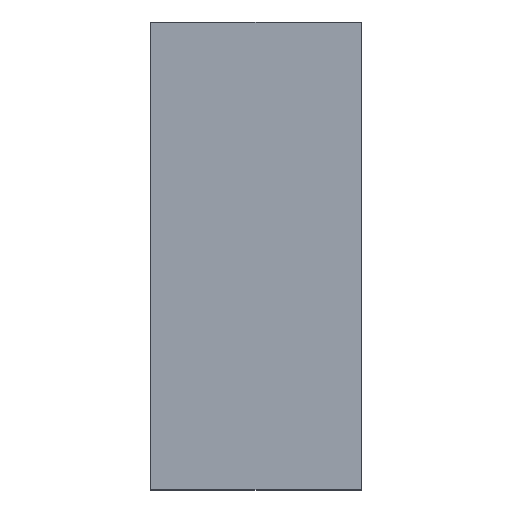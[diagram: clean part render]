
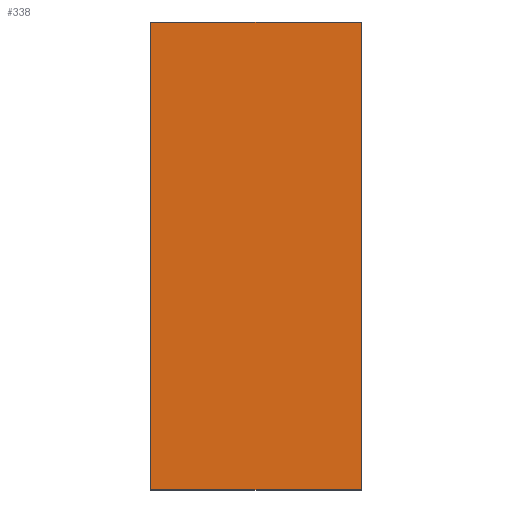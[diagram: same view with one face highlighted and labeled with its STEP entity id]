
A CAD part, top view. The second image highlights one B-rep face of the part: STEP entity #338.
In plain terms, the highlighted planar face has unit normal (0, 0, 1).
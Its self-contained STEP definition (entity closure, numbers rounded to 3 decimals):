
#24 = VERTEX_POINT('',#25);
#25 = CARTESIAN_POINT('',(50.2,3.,-4.7));
#32 = PLANE('',#33);
#33 = AXIS2_PLACEMENT_3D('',#34,#35,#36);
#34 = CARTESIAN_POINT('',(50.2,3.,-5.7));
#35 = DIRECTION('',(1.,0.,0.));
#36 = DIRECTION('',(0.,0.,1.));
#44 = PLANE('',#45);
#45 = AXIS2_PLACEMENT_3D('',#46,#47,#48);
#46 = CARTESIAN_POINT('',(50.2,3.,-5.7));
#47 = DIRECTION('',(0.,1.,0.));
#48 = DIRECTION('',(0.,0.,1.));
#85 = VERTEX_POINT('',#86);
#86 = CARTESIAN_POINT('',(50.2,11.,-4.7));
#100 = PLANE('',#101);
#101 = AXIS2_PLACEMENT_3D('',#102,#103,#104);
#102 = CARTESIAN_POINT('',(50.2,11.,-5.7));
#103 = DIRECTION('',(0.,1.,0.));
#104 = DIRECTION('',(0.,0.,1.));
#112 = EDGE_CURVE('',#24,#85,#113,.T.);
#113 = SURFACE_CURVE('',#114,(#118,#125),.PCURVE_S1.);
#114 = LINE('',#115,#116);
#115 = CARTESIAN_POINT('',(50.2,3.,-4.7));
#116 = VECTOR('',#117,1.);
#117 = DIRECTION('',(0.,1.,0.));
#118 = PCURVE('',#32,#119);
#119 = DEFINITIONAL_REPRESENTATION('',(#120),#124);
#120 = LINE('',#121,#122);
#121 = CARTESIAN_POINT('',(1.,0.));
#122 = VECTOR('',#123,1.);
#123 = DIRECTION('',(0.,-1.));
#124 = ( GEOMETRIC_REPRESENTATION_CONTEXT(2) 
PARAMETRIC_REPRESENTATION_CONTEXT() REPRESENTATION_CONTEXT('2D SPACE',''
  ) );
#125 = PCURVE('',#126,#131);
#126 = PLANE('',#127);
#127 = AXIS2_PLACEMENT_3D('',#128,#129,#130);
#128 = CARTESIAN_POINT('',(50.2,3.,-4.7));
#129 = DIRECTION('',(0.,0.,1.));
#130 = DIRECTION('',(1.,0.,0.));
#131 = DEFINITIONAL_REPRESENTATION('',(#132),#136);
#132 = LINE('',#133,#134);
#133 = CARTESIAN_POINT('',(0.,0.));
#134 = VECTOR('',#135,1.);
#135 = DIRECTION('',(0.,1.));
#136 = ( GEOMETRIC_REPRESENTATION_CONTEXT(2) 
PARAMETRIC_REPRESENTATION_CONTEXT() REPRESENTATION_CONTEXT('2D SPACE',''
  ) );
#144 = VERTEX_POINT('',#145);
#145 = CARTESIAN_POINT('',(53.8,3.,-4.7));
#152 = PLANE('',#153);
#153 = AXIS2_PLACEMENT_3D('',#154,#155,#156);
#154 = CARTESIAN_POINT('',(53.8,3.,-5.7));
#155 = DIRECTION('',(1.,0.,0.));
#156 = DIRECTION('',(0.,0.,1.));
#195 = VERTEX_POINT('',#196);
#196 = CARTESIAN_POINT('',(53.8,11.,-4.7));
#217 = EDGE_CURVE('',#144,#195,#218,.T.);
#218 = SURFACE_CURVE('',#219,(#223,#230),.PCURVE_S1.);
#219 = LINE('',#220,#221);
#220 = CARTESIAN_POINT('',(53.8,3.,-4.7));
#221 = VECTOR('',#222,1.);
#222 = DIRECTION('',(0.,1.,0.));
#223 = PCURVE('',#152,#224);
#224 = DEFINITIONAL_REPRESENTATION('',(#225),#229);
#225 = LINE('',#226,#227);
#226 = CARTESIAN_POINT('',(1.,0.));
#227 = VECTOR('',#228,1.);
#228 = DIRECTION('',(0.,-1.));
#229 = ( GEOMETRIC_REPRESENTATION_CONTEXT(2) 
PARAMETRIC_REPRESENTATION_CONTEXT() REPRESENTATION_CONTEXT('2D SPACE',''
  ) );
#230 = PCURVE('',#126,#231);
#231 = DEFINITIONAL_REPRESENTATION('',(#232),#236);
#232 = LINE('',#233,#234);
#233 = CARTESIAN_POINT('',(3.6,0.));
#234 = VECTOR('',#235,1.);
#235 = DIRECTION('',(0.,1.));
#236 = ( GEOMETRIC_REPRESENTATION_CONTEXT(2) 
PARAMETRIC_REPRESENTATION_CONTEXT() REPRESENTATION_CONTEXT('2D SPACE',''
  ) );
#263 = EDGE_CURVE('',#24,#144,#264,.T.);
#264 = SURFACE_CURVE('',#265,(#269,#276),.PCURVE_S1.);
#265 = LINE('',#266,#267);
#266 = CARTESIAN_POINT('',(50.2,3.,-4.7));
#267 = VECTOR('',#268,1.);
#268 = DIRECTION('',(1.,0.,0.));
#269 = PCURVE('',#44,#270);
#270 = DEFINITIONAL_REPRESENTATION('',(#271),#275);
#271 = LINE('',#272,#273);
#272 = CARTESIAN_POINT('',(1.,0.));
#273 = VECTOR('',#274,1.);
#274 = DIRECTION('',(0.,1.));
#275 = ( GEOMETRIC_REPRESENTATION_CONTEXT(2) 
PARAMETRIC_REPRESENTATION_CONTEXT() REPRESENTATION_CONTEXT('2D SPACE',''
  ) );
#276 = PCURVE('',#126,#277);
#277 = DEFINITIONAL_REPRESENTATION('',(#278),#282);
#278 = LINE('',#279,#280);
#279 = CARTESIAN_POINT('',(0.,0.));
#280 = VECTOR('',#281,1.);
#281 = DIRECTION('',(1.,0.));
#282 = ( GEOMETRIC_REPRESENTATION_CONTEXT(2) 
PARAMETRIC_REPRESENTATION_CONTEXT() REPRESENTATION_CONTEXT('2D SPACE',''
  ) );
#310 = EDGE_CURVE('',#85,#195,#311,.T.);
#311 = SURFACE_CURVE('',#312,(#316,#323),.PCURVE_S1.);
#312 = LINE('',#313,#314);
#313 = CARTESIAN_POINT('',(50.2,11.,-4.7));
#314 = VECTOR('',#315,1.);
#315 = DIRECTION('',(1.,0.,0.));
#316 = PCURVE('',#100,#317);
#317 = DEFINITIONAL_REPRESENTATION('',(#318),#322);
#318 = LINE('',#319,#320);
#319 = CARTESIAN_POINT('',(1.,0.));
#320 = VECTOR('',#321,1.);
#321 = DIRECTION('',(0.,1.));
#322 = ( GEOMETRIC_REPRESENTATION_CONTEXT(2) 
PARAMETRIC_REPRESENTATION_CONTEXT() REPRESENTATION_CONTEXT('2D SPACE',''
  ) );
#323 = PCURVE('',#126,#324);
#324 = DEFINITIONAL_REPRESENTATION('',(#325),#329);
#325 = LINE('',#326,#327);
#326 = CARTESIAN_POINT('',(0.,8.));
#327 = VECTOR('',#328,1.);
#328 = DIRECTION('',(1.,0.));
#329 = ( GEOMETRIC_REPRESENTATION_CONTEXT(2) 
PARAMETRIC_REPRESENTATION_CONTEXT() REPRESENTATION_CONTEXT('2D SPACE',''
  ) );
#338 = ADVANCED_FACE('',(#339),#126,.T.);
#339 = FACE_BOUND('',#340,.T.);
#340 = EDGE_LOOP('',(#341,#342,#343,#344));
#341 = ORIENTED_EDGE('',*,*,#112,.F.);
#342 = ORIENTED_EDGE('',*,*,#263,.T.);
#343 = ORIENTED_EDGE('',*,*,#217,.T.);
#344 = ORIENTED_EDGE('',*,*,#310,.F.);
